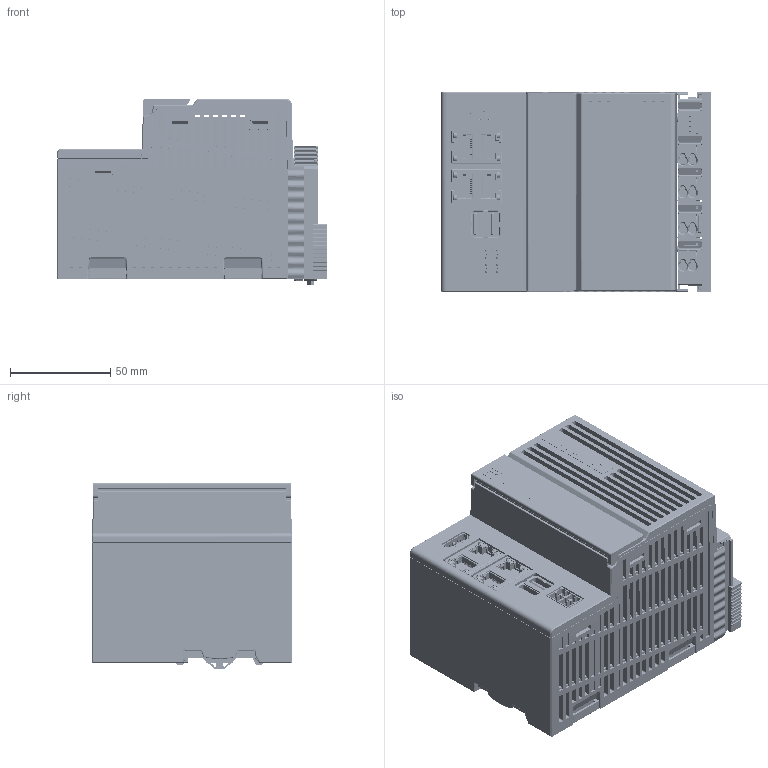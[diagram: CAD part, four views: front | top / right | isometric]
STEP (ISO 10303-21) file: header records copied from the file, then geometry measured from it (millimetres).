
FILE_DESCRIPTION (( 'STEP AP203' ), '1' );
FILE_NAME ('紧凑型SX5-4网口-可外发3D图.STEP', '2023-07-05T01:31:09', ( 'Windows 用户' ), ( '' ), 'SwSTEP 2.0', 'SolidWorks 2016', '' );
FILE_SCHEMA (( 'CONFIG_CONTROL_DESIGN' ));
Length unit declared in the file: millimetre
Products named in the file (37): TP-1; SK-2; DK_ASM; PCB-DY-JR; USB_30_1_3_3_1; DK; LOGO-2; SW-P-M2-L3; LED; CK_ASM; PCB-JK-4RJ45_ASM; M3XL5; PCB-DY_ASM; HDMI; CF_1__1; SK-1; 笝傷裔啣; 紧凑型SX5-4网口-可外发3D图; PCB-DC_ASM; M2X4X4; STACKING_ASM; 15EDGRHC-THR-3_5-04P-13-00A_H_; CFAST-C_1; DF750-200-1Y-XXAH; 2032; DY-MLP-2; BATTY; DY-ZJ_ASM; LOGO; 08-CF-CARD_ASM; SK_ASM; SK-3-4RJ45; RRU_2-1_1_; LOCK-1; SW-P-M3-L6; PCB-KZ_ASM; LOCK-2
Assembly tree (49 placements, depth 5):
  紧凑型SX5-4网口-可外发3D图
    STACKING_ASM
      PCB-KZ_ASM
        DF750-200-1Y-XXAH
        PCB-DY-JR
      PCB-JK-4RJ45_ASM
        CK_ASM
          15EDGRHC-THR-3_5-04P-13-00A_H_
        HDMI
        USB_30_1_3_3_1
        RRU_2-1_1_  x2
      PCB-DC_ASM
        08-CF-CARD_ASM
          CFAST-C_1
          CF_1__1
        BATTY
        LED  x4
        2032
      PCB-DY_ASM
        DY-ZJ_ASM
          M3XL5  x2
        SW-P-M3-L6  x4
        DY-MLP-2
    DK_ASM
      DK
      LOCK-1  x2
      LOCK-2  x2
      TP-1
      SW-P-M2-L3
    SK_ASM
      SK-1
      M2X4X4  x2
      SW-P-M2-L3  x2
      SK-2
      SK-3-4RJ45
      LOGO
      LOGO-2
    笝傷裔啣
Bounding box: 134.75 x 100 x 93.25 mm (x, y, z)
Volume: 902527.3 mm3; surface area: 294469.7 mm2
Topology: 40 solids, 84 shells, 16084 faces, 46026 edges, 29998 vertices
Faces by surface type: plane 10427, cylinder 4246, bspline 788, cone 600, torus 23
Entity records: 493446 total; most frequent: CARTESIAN_POINT 158677, ORIENTED_EDGE 77343, DIRECTION 55687, EDGE_CURVE 38727, VERTEX_POINT 25442, LINE 25133, VECTOR 25133, AXIS2_PLACEMENT_3D 15277
